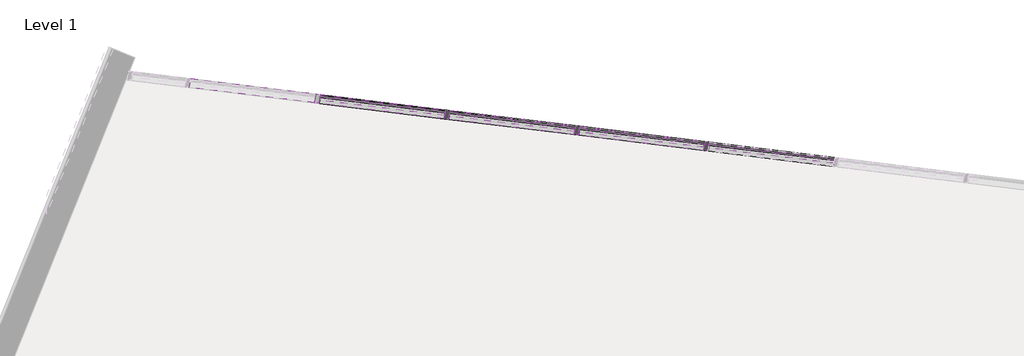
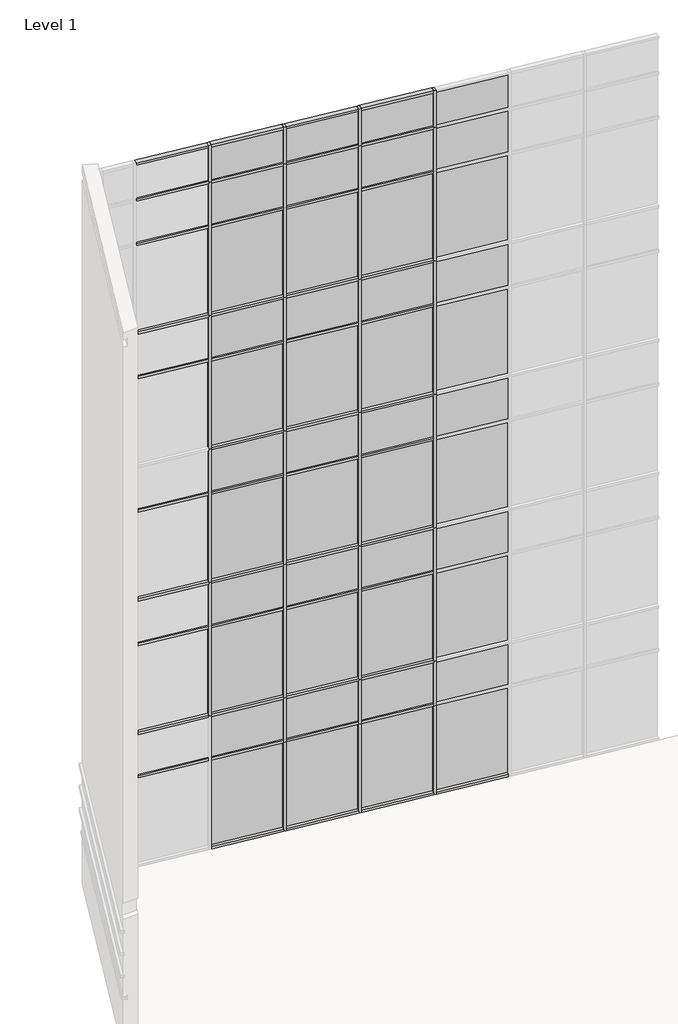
# One storey, part 16 of 23: 73 members, 44 plates.
"""IFC4 building model written with IfcOpenShell, lengths in millimetres."""

from ifc_helpers import new_model, si_unit, origin, place, context, project, spatial, transform, mapped, element, save
from components import member_2b49869a, member_f92b8aa2, member_810865a4, member_f0fea5a5, member_6d5c3e5e, member_9764dd38, system_panel_glazed_14c75400, system_panel_solid_5dfe6f83, system_panel_solid_e25e2004, system_panel_solid_b7551183

model = new_model("IFC4")

# Units and contexts
model_context = context("Model", 3, world=origin())
ifc_project = project(units=[si_unit("LENGTHUNIT", "METRE", prefix="MILLI")], contexts=[model_context])

# Site, building, storey
site = spatial("IfcSite", under=ifc_project)
building = spatial("IfcBuilding", under=site)
storey = spatial("IfcBuildingStorey", under=building, Name="Level 1", Elevation=0.0)

# Members
placement = place(None, origin())
member_shape = member_2b49869a(model_context)
element("IfcMember", 1, ObjectType="Rectangular Mullion : 2.5\" x 5\" rectangular", at=placement, inside=storey, context=model_context, shape_type="MappedRepresentation", body=[
    mapped(member_shape, transform((-22037.0151762, 14577.1664087, 2438.4), x_axis=(0.9925461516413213, -0.12186934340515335, 0.0), y_axis=(-0.12186934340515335, -0.9925461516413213, 0.0), z_axis=(0.0, 0.0, -1.0))),
])
element("IfcMember", 2, ObjectType="Rectangular Mullion : 2.5\" x 5\" rectangular", at=placement, inside=storey, context=model_context, shape_type="MappedRepresentation", body=[
    mapped(member_shape, transform((-23852.1835783, 14800.0410639, 2438.4), x_axis=(0.9925461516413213, -0.12186934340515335, 0.0), y_axis=(-0.12186934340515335, -0.9925461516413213, 0.0), z_axis=(0.0, 0.0, -1.0))),
])
element("IfcMember", 3, ObjectType="Rectangular Mullion : 2.5\" x 5\" rectangular", at=placement, inside=storey, context=model_context, shape_type="MappedRepresentation", body=[
    mapped(member_shape, transform((-25667.3519804, 15022.9157192, 2438.4), x_axis=(0.9925461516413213, -0.12186934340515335, 0.0), y_axis=(-0.12186934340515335, -0.9925461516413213, 0.0), z_axis=(0.0, 0.0, -1.0))),
])
member_2_shape = member_f92b8aa2(model_context)
element("IfcMember", 4, ObjectType="Rectangular Mullion : 2.5\" x 5\" rectangular", at=placement, inside=storey, context=model_context, shape_type="MappedRepresentation", body=[
    mapped(member_2_shape, transform((-22037.0151762, 14577.1664087, 18288.0), x_axis=(0.9925461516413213, -0.12186934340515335, 0.0), y_axis=(-0.12186934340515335, -0.9925461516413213, 0.0), z_axis=(0.0, 0.0, -1.0))),
])
element("IfcMember", 5, ObjectType="Rectangular Mullion : 2.5\" x 5\" rectangular", at=placement, inside=storey, context=model_context, shape_type="MappedRepresentation", body=[
    mapped(member_2_shape, transform((-23852.1835783, 14800.0410639, 18288.0), x_axis=(0.9925461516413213, -0.12186934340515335, 0.0), y_axis=(-0.12186934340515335, -0.9925461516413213, 0.0), z_axis=(0.0, 0.0, -1.0))),
])
element("IfcMember", 6, ObjectType="Rectangular Mullion : 2.5\" x 5\" rectangular", at=placement, inside=storey, context=model_context, shape_type="MappedRepresentation", body=[
    mapped(member_2_shape, transform((-25667.3519804, 15022.9157192, 18288.0), x_axis=(0.9925461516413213, -0.12186934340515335, 0.0), y_axis=(-0.12186934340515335, -0.9925461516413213, 0.0), z_axis=(0.0, 0.0, -1.0))),
])
element("IfcMember", 7, ObjectType="Rectangular Mullion : 2.5\" x 5\" rectangular", at=placement, inside=storey, context=model_context, shape_type="MappedRepresentation", body=[
    mapped(member_2_shape, transform((-27482.5203826, 15245.7903744, 18288.0), x_axis=(0.9925461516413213, -0.12186934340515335, 0.0), y_axis=(-0.12186934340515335, -0.9925461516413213, 0.0), z_axis=(0.0, 0.0, -1.0))),
])
member_3_shape = member_810865a4(model_context)
element("IfcMember", 8, ObjectType="Rectangular Mullion : 2.5\" x 5\" rectangular", at=placement, inside=storey, context=model_context, shape_type="MappedRepresentation", body=[
    mapped(member_3_shape, transform((-22037.0151762, 14577.1664087, 14630.4), x_axis=(0.9925461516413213, -0.12186934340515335, 0.0), y_axis=(-0.12186934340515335, -0.9925461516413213, 0.0), z_axis=(0.0, 0.0, -1.0))),
])
element("IfcMember", 9, ObjectType="Rectangular Mullion : 2.5\" x 5\" rectangular", at=placement, inside=storey, context=model_context, shape_type="MappedRepresentation", body=[
    mapped(member_3_shape, transform((-22037.0151762, 14577.1664087, 10972.8), x_axis=(0.9925461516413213, -0.12186934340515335, 0.0), y_axis=(-0.12186934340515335, -0.9925461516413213, 0.0), z_axis=(0.0, 0.0, -1.0))),
])
element("IfcMember", 10, ObjectType="Rectangular Mullion : 2.5\" x 5\" rectangular", at=placement, inside=storey, context=model_context, shape_type="MappedRepresentation", body=[
    mapped(member_3_shape, transform((-22037.0151762, 14577.1664087, 7315.2), x_axis=(0.9925461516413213, -0.12186934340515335, 0.0), y_axis=(-0.12186934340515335, -0.9925461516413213, 0.0), z_axis=(0.0, 0.0, -1.0))),
])
element("IfcMember", 11, ObjectType="Rectangular Mullion : 2.5\" x 5\" rectangular", at=placement, inside=storey, context=model_context, shape_type="MappedRepresentation", body=[
    mapped(member_3_shape, transform((-22037.0151762, 14577.1664087, 3657.6), x_axis=(0.9925461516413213, -0.12186934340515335, 0.0), y_axis=(-0.12186934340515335, -0.9925461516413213, 0.0), z_axis=(0.0, 0.0, -1.0))),
])
element("IfcMember", 12, ObjectType="Rectangular Mullion : 2.5\" x 5\" rectangular", at=placement, inside=storey, context=model_context, shape_type="MappedRepresentation", body=[
    mapped(member_3_shape, transform((-23852.1835783, 14800.0410639, 14630.4), x_axis=(0.9925461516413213, -0.12186934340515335, 0.0), y_axis=(-0.12186934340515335, -0.9925461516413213, 0.0), z_axis=(0.0, 0.0, -1.0))),
])
element("IfcMember", 13, ObjectType="Rectangular Mullion : 2.5\" x 5\" rectangular", at=placement, inside=storey, context=model_context, shape_type="MappedRepresentation", body=[
    mapped(member_3_shape, transform((-23852.1835783, 14800.0410639, 10972.8), x_axis=(0.9925461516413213, -0.12186934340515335, 0.0), y_axis=(-0.12186934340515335, -0.9925461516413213, 0.0), z_axis=(0.0, 0.0, -1.0))),
])
element("IfcMember", 14, ObjectType="Rectangular Mullion : 2.5\" x 5\" rectangular", at=placement, inside=storey, context=model_context, shape_type="MappedRepresentation", body=[
    mapped(member_3_shape, transform((-23852.1835783, 14800.0410639, 7315.2), x_axis=(0.9925461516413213, -0.12186934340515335, 0.0), y_axis=(-0.12186934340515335, -0.9925461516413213, 0.0), z_axis=(0.0, 0.0, -1.0))),
])
element("IfcMember", 15, ObjectType="Rectangular Mullion : 2.5\" x 5\" rectangular", at=placement, inside=storey, context=model_context, shape_type="MappedRepresentation", body=[
    mapped(member_3_shape, transform((-23852.1835783, 14800.0410639, 3657.6), x_axis=(0.9925461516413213, -0.12186934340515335, 0.0), y_axis=(-0.12186934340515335, -0.9925461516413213, 0.0), z_axis=(0.0, 0.0, -1.0))),
])
element("IfcMember", 16, ObjectType="Rectangular Mullion : 2.5\" x 5\" rectangular", at=placement, inside=storey, context=model_context, shape_type="MappedRepresentation", body=[
    mapped(member_3_shape, transform((-25667.3519804, 15022.9157192, 14630.4), x_axis=(0.9925461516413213, -0.12186934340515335, 0.0), y_axis=(-0.12186934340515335, -0.9925461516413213, 0.0), z_axis=(0.0, 0.0, -1.0))),
])
element("IfcMember", 17, ObjectType="Rectangular Mullion : 2.5\" x 5\" rectangular", at=placement, inside=storey, context=model_context, shape_type="MappedRepresentation", body=[
    mapped(member_3_shape, transform((-25667.3519804, 15022.9157192, 10972.8), x_axis=(0.9925461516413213, -0.12186934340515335, 0.0), y_axis=(-0.12186934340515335, -0.9925461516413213, 0.0), z_axis=(0.0, 0.0, -1.0))),
])
element("IfcMember", 18, ObjectType="Rectangular Mullion : 2.5\" x 5\" rectangular", at=placement, inside=storey, context=model_context, shape_type="MappedRepresentation", body=[
    mapped(member_3_shape, transform((-25667.3519804, 15022.9157192, 7315.2), x_axis=(0.9925461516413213, -0.12186934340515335, 0.0), y_axis=(-0.12186934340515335, -0.9925461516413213, 0.0), z_axis=(0.0, 0.0, -1.0))),
])
element("IfcMember", 19, ObjectType="Rectangular Mullion : 2.5\" x 5\" rectangular", at=placement, inside=storey, context=model_context, shape_type="MappedRepresentation", body=[
    mapped(member_3_shape, transform((-25667.3519804, 15022.9157192, 3657.6), x_axis=(0.9925461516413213, -0.12186934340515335, 0.0), y_axis=(-0.12186934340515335, -0.9925461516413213, 0.0), z_axis=(0.0, 0.0, -1.0))),
])
element("IfcMember", 20, ObjectType="Rectangular Mullion : 2.5\" x 5\" rectangular", at=placement, inside=storey, context=model_context, shape_type="MappedRepresentation", body=[
    mapped(member_3_shape, transform((-27482.5203826, 15245.7903744, 14630.4), x_axis=(0.9925461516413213, -0.12186934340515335, 0.0), y_axis=(-0.12186934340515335, -0.9925461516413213, 0.0), z_axis=(0.0, 0.0, -1.0))),
])
element("IfcMember", 21, ObjectType="Rectangular Mullion : 2.5\" x 5\" rectangular", at=placement, inside=storey, context=model_context, shape_type="MappedRepresentation", body=[
    mapped(member_3_shape, transform((-27482.5203826, 15245.7903744, 10972.8), x_axis=(0.9925461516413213, -0.12186934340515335, 0.0), y_axis=(-0.12186934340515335, -0.9925461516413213, 0.0), z_axis=(0.0, 0.0, -1.0))),
])
element("IfcMember", 22, ObjectType="Rectangular Mullion : 2.5\" x 5\" rectangular", at=placement, inside=storey, context=model_context, shape_type="MappedRepresentation", body=[
    mapped(member_3_shape, transform((-27482.5203826, 15245.7903744, 7315.2), x_axis=(0.9925461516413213, -0.12186934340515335, 0.0), y_axis=(-0.12186934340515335, -0.9925461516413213, 0.0), z_axis=(0.0, 0.0, -1.0))),
])
element("IfcMember", 23, ObjectType="Rectangular Mullion : 2.5\" x 5\" rectangular", at=placement, inside=storey, context=model_context, shape_type="MappedRepresentation", body=[
    mapped(member_3_shape, transform((-27482.5203826, 15245.7903744, 3657.6), x_axis=(0.9925461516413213, -0.12186934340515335, 0.0), y_axis=(-0.12186934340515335, -0.9925461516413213, 0.0), z_axis=(0.0, 0.0, -1.0))),
])
member_4_shape = member_f0fea5a5(model_context)
element("IfcMember", 24, ObjectType="Rectangular Mullion : 2.5\" x 5\" rectangular", at=placement, inside=storey, context=model_context, shape_type="MappedRepresentation", body=[
    mapped(member_4_shape, transform((-22037.0151762, 14577.1664087, 0.0), x_axis=(0.9925461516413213, -0.12186934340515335, 0.0), y_axis=(-0.12186934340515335, -0.9925461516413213, 0.0), z_axis=(0.0, 0.0, -1.0))),
])
element("IfcMember", 25, ObjectType="Rectangular Mullion : 2.5\" x 5\" rectangular", at=placement, inside=storey, context=model_context, shape_type="MappedRepresentation", body=[
    mapped(member_4_shape, transform((-23852.1835783, 14800.0410639, 0.0), x_axis=(0.9925461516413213, -0.12186934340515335, 0.0), y_axis=(-0.12186934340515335, -0.9925461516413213, 0.0), z_axis=(0.0, 0.0, -1.0))),
])
element("IfcMember", 26, ObjectType="Rectangular Mullion : 2.5\" x 5\" rectangular", at=placement, inside=storey, context=model_context, shape_type="MappedRepresentation", body=[
    mapped(member_4_shape, transform((-25667.3519804, 15022.9157192, 0.0), x_axis=(0.9925461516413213, -0.12186934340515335, 0.0), y_axis=(-0.12186934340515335, -0.9925461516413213, 0.0), z_axis=(0.0, 0.0, -1.0))),
])
member_5_shape = member_6d5c3e5e(model_context)
element("IfcMember", 27, ObjectType="Rectangular Mullion : 2.5\" x 5\" rectangular", at=placement, inside=storey, context=model_context, shape_type="MappedRepresentation", body=[
    mapped(member_5_shape, transform((-22068.5285165, 14581.0357604, 19304.0), x_axis=(0.0, 0.0, 1.0), y_axis=(-0.12186934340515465, -0.9925461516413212, 0.0), z_axis=(0.9925461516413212, -0.12186934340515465, 0.0))),
])
element("IfcMember", 28, ObjectType="Rectangular Mullion : 2.5\" x 5\" rectangular", at=placement, inside=storey, context=model_context, shape_type="MappedRepresentation", body=[
    mapped(member_5_shape, transform((-23883.6969186, 14803.9104156, 19304.0), x_axis=(0.0, 0.0, 1.0), y_axis=(-0.12186934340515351, -0.9925461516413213, 0.0), z_axis=(0.9925461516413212, -0.1218693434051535, 0.0))),
])
element("IfcMember", 29, ObjectType="Rectangular Mullion : 2.5\" x 5\" rectangular", at=placement, inside=storey, context=model_context, shape_type="MappedRepresentation", body=[
    mapped(member_5_shape, transform((-25698.8653208, 15026.7850708, 19304.0), x_axis=(0.0, 0.0, 1.0), y_axis=(-0.12186934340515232, -0.9925461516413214, 0.0), z_axis=(0.9925461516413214, -0.12186934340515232, 0.0))),
])
element("IfcMember", 30, ObjectType="Rectangular Mullion : 2.5\" x 5\" rectangular", at=placement, inside=storey, context=model_context, shape_type="MappedRepresentation", body=[
    mapped(member_5_shape, transform((-27514.0337229, 15249.659726, 19304.0), x_axis=(0.0, 0.0, 1.0), y_axis=(-0.12186934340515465, -0.9925461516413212, 0.0), z_axis=(0.9925461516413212, -0.12186934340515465, 0.0))),
])
member_6_shape = member_9764dd38(model_context)
element("IfcMember", 31, ObjectType="Rectangular Mullion : 2.5\" x 5\" rectangular", at=placement, inside=storey, context=model_context, shape_type="MappedRepresentation", body=[
    mapped(member_6_shape, transform((-22068.5285165, 14581.0357604, 17068.8), x_axis=(0.0, 0.0, 1.0), y_axis=(-0.12186934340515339, -0.9925461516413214, 0.0), z_axis=(0.9925461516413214, -0.12186934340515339, 0.0))),
])
element("IfcMember", 32, ObjectType="Rectangular Mullion : 2.5\" x 5\" rectangular", at=placement, inside=storey, context=model_context, shape_type="MappedRepresentation", body=[
    mapped(member_6_shape, transform((-23883.6969186, 14803.9104156, 17068.8), x_axis=(0.0, 0.0, 1.0), y_axis=(-0.12186934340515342, -0.9925461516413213, 0.0), z_axis=(0.9925461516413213, -0.12186934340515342, 0.0))),
])
element("IfcMember", 33, ObjectType="Rectangular Mullion : 2.5\" x 5\" rectangular", at=placement, inside=storey, context=model_context, shape_type="MappedRepresentation", body=[
    mapped(member_6_shape, transform((-25698.8653208, 15026.7850708, 17068.8), x_axis=(0.0, 0.0, 1.0), y_axis=(-0.12186934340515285, -0.9925461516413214, 0.0), z_axis=(0.9925461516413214, -0.12186934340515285, 0.0))),
])
element("IfcMember", 34, ObjectType="Rectangular Mullion : 2.5\" x 5\" rectangular", at=placement, inside=storey, context=model_context, shape_type="MappedRepresentation", body=[
    mapped(member_6_shape, transform((-27514.0337229, 15249.659726, 17068.8), x_axis=(0.0, 0.0, 1.0), y_axis=(-0.12186934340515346, -0.9925461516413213, 0.0), z_axis=(0.9925461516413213, -0.12186934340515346, 0.0))),
])
element("IfcMember", 35, ObjectType="Rectangular Mullion : 2.5\" x 5\" rectangular", at=placement, inside=storey, context=model_context, shape_type="MappedRepresentation", body=[
    mapped(member_6_shape, transform((-22068.5285165, 14581.0357604, 13411.2), x_axis=(0.0, 0.0, 1.0), y_axis=(-0.12186934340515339, -0.9925461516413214, 0.0), z_axis=(0.9925461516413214, -0.12186934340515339, 0.0))),
])
element("IfcMember", 36, ObjectType="Rectangular Mullion : 2.5\" x 5\" rectangular", at=placement, inside=storey, context=model_context, shape_type="MappedRepresentation", body=[
    mapped(member_6_shape, transform((-23883.6969186, 14803.9104156, 13411.2), x_axis=(0.0, 0.0, 1.0), y_axis=(-0.12186934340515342, -0.9925461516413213, 0.0), z_axis=(0.9925461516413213, -0.12186934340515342, 0.0))),
])
element("IfcMember", 37, ObjectType="Rectangular Mullion : 2.5\" x 5\" rectangular", at=placement, inside=storey, context=model_context, shape_type="MappedRepresentation", body=[
    mapped(member_6_shape, transform((-25698.8653208, 15026.7850708, 13411.2), x_axis=(0.0, 0.0, 1.0), y_axis=(-0.12186934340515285, -0.9925461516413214, 0.0), z_axis=(0.9925461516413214, -0.12186934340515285, 0.0))),
])
element("IfcMember", 38, ObjectType="Rectangular Mullion : 2.5\" x 5\" rectangular", at=placement, inside=storey, context=model_context, shape_type="MappedRepresentation", body=[
    mapped(member_6_shape, transform((-27514.0337229, 15249.659726, 13411.2), x_axis=(0.0, 0.0, 1.0), y_axis=(-0.12186934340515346, -0.9925461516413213, 0.0), z_axis=(0.9925461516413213, -0.12186934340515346, 0.0))),
])
element("IfcMember", 39, ObjectType="Rectangular Mullion : 2.5\" x 5\" rectangular", at=placement, inside=storey, context=model_context, shape_type="MappedRepresentation", body=[
    mapped(member_6_shape, transform((-22068.5285165, 14581.0357604, 9753.6), x_axis=(0.0, 0.0, 1.0), y_axis=(-0.12186934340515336, -0.9925461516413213, 0.0), z_axis=(0.9925461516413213, -0.12186934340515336, 0.0))),
])
element("IfcMember", 40, ObjectType="Rectangular Mullion : 2.5\" x 5\" rectangular", at=placement, inside=storey, context=model_context, shape_type="MappedRepresentation", body=[
    mapped(member_6_shape, transform((-23883.6969186, 14803.9104156, 9753.6), x_axis=(0.0, 0.0, 1.0), y_axis=(-0.12186934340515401, -0.9925461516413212, 0.0), z_axis=(0.9925461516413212, -0.12186934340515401, 0.0))),
])
element("IfcMember", 41, ObjectType="Rectangular Mullion : 2.5\" x 5\" rectangular", at=placement, inside=storey, context=model_context, shape_type="MappedRepresentation", body=[
    mapped(member_6_shape, transform((-25698.8653208, 15026.7850708, 9753.6), x_axis=(0.0, 0.0, 1.0), y_axis=(-0.12186934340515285, -0.9925461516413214, 0.0), z_axis=(0.9925461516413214, -0.12186934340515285, 0.0))),
])
element("IfcMember", 42, ObjectType="Rectangular Mullion : 2.5\" x 5\" rectangular", at=placement, inside=storey, context=model_context, shape_type="MappedRepresentation", body=[
    mapped(member_6_shape, transform((-27514.0337229, 15249.659726, 9753.6), x_axis=(0.0, 0.0, 1.0), y_axis=(-0.12186934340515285, -0.9925461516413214, 0.0), z_axis=(0.9925461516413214, -0.12186934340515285, 0.0))),
])
element("IfcMember", 43, ObjectType="Rectangular Mullion : 2.5\" x 5\" rectangular", at=placement, inside=storey, context=model_context, shape_type="MappedRepresentation", body=[
    mapped(member_6_shape, transform((-22068.5285165, 14581.0357604, 6096.0), x_axis=(0.0, 0.0, 1.0), y_axis=(-0.12186934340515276, -0.9925461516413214, 0.0), z_axis=(0.9925461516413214, -0.12186934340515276, 0.0))),
])
element("IfcMember", 44, ObjectType="Rectangular Mullion : 2.5\" x 5\" rectangular", at=placement, inside=storey, context=model_context, shape_type="MappedRepresentation", body=[
    mapped(member_6_shape, transform((-23883.6969186, 14803.9104156, 6096.0), x_axis=(0.0, 0.0, 1.0), y_axis=(-0.12186934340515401, -0.9925461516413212, 0.0), z_axis=(0.9925461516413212, -0.12186934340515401, 0.0))),
])
element("IfcMember", 45, ObjectType="Rectangular Mullion : 2.5\" x 5\" rectangular", at=placement, inside=storey, context=model_context, shape_type="MappedRepresentation", body=[
    mapped(member_6_shape, transform((-25698.8653208, 15026.7850708, 6096.0), x_axis=(0.0, 0.0, 1.0), y_axis=(-0.12186934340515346, -0.9925461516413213, 0.0), z_axis=(0.9925461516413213, -0.12186934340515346, 0.0))),
])
element("IfcMember", 46, ObjectType="Rectangular Mullion : 2.5\" x 5\" rectangular", at=placement, inside=storey, context=model_context, shape_type="MappedRepresentation", body=[
    mapped(member_6_shape, transform((-27514.0337229, 15249.659726, 6096.0), x_axis=(0.0, 0.0, 1.0), y_axis=(-0.12186934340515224, -0.9925461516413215, 0.0), z_axis=(0.9925461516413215, -0.12186934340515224, 0.0))),
])
element("IfcMember", 47, ObjectType="Rectangular Mullion : 2.5\" x 5\" rectangular", at=placement, inside=storey, context=model_context, shape_type="MappedRepresentation", body=[
    mapped(member_6_shape, transform((-22068.5285165, 14581.0357604, 2470.15), x_axis=(0.0, 0.0, 1.0), y_axis=(-0.12186934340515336, -0.9925461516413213, 0.0), z_axis=(0.9925461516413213, -0.12186934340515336, 0.0))),
])
element("IfcMember", 48, ObjectType="Rectangular Mullion : 2.5\" x 5\" rectangular", at=placement, inside=storey, context=model_context, shape_type="MappedRepresentation", body=[
    mapped(member_6_shape, transform((-23883.6969186, 14803.9104156, 2470.15), x_axis=(0.0, 0.0, 1.0), y_axis=(-0.12186934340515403, -0.9925461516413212, 0.0), z_axis=(0.9925461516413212, -0.12186934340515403, 0.0))),
])
element("IfcMember", 49, ObjectType="Rectangular Mullion : 2.5\" x 5\" rectangular", at=placement, inside=storey, context=model_context, shape_type="MappedRepresentation", body=[
    mapped(member_6_shape, transform((-25698.8653208, 15026.7850708, 2470.15), x_axis=(0.0, 0.0, 1.0), y_axis=(-0.12186934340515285, -0.9925461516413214, 0.0), z_axis=(0.9925461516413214, -0.12186934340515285, 0.0))),
])
element("IfcMember", 50, ObjectType="Rectangular Mullion : 2.5\" x 5\" rectangular", at=placement, inside=storey, context=model_context, shape_type="MappedRepresentation", body=[
    mapped(member_6_shape, transform((-27514.0337229, 15249.659726, 2470.15), x_axis=(0.0, 0.0, 1.0), y_axis=(-0.12186934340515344, -0.9925461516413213, 0.0), z_axis=(0.9925461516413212, -0.12186934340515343, 0.0))),
])
element("IfcMember", 51, ObjectType="Rectangular Mullion : 2.5\" x 5\" rectangular", at=placement, inside=storey, context=model_context, shape_type="MappedRepresentation", body=[
    mapped(member_5_shape, transform((-22005.5018359, 14573.2970571, 0.0), x_axis=(0.0, 0.0, -1.0), y_axis=(-0.12186934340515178, -0.9925461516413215, 0.0), z_axis=(-0.9925461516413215, 0.12186934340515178, 0.0))),
])
element("IfcMember", 52, ObjectType="Rectangular Mullion : 2.5\" x 5\" rectangular", at=placement, inside=storey, context=model_context, shape_type="MappedRepresentation", body=[
    mapped(member_5_shape, transform((-23820.670238, 14796.1717123, 0.0), x_axis=(0.0, 0.0, -1.0), y_axis=(-0.12186934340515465, -0.9925461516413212, 0.0), z_axis=(-0.9925461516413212, 0.12186934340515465, 0.0))),
])
element("IfcMember", 53, ObjectType="Rectangular Mullion : 2.5\" x 5\" rectangular", at=placement, inside=storey, context=model_context, shape_type="MappedRepresentation", body=[
    mapped(member_5_shape, transform((-25635.8386401, 15019.0463675, 0.0), x_axis=(0.0, 0.0, -1.0), y_axis=(-0.12186934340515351, -0.9925461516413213, 0.0), z_axis=(-0.9925461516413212, 0.1218693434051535, 0.0))),
])
element("IfcMember", 54, ObjectType="Rectangular Mullion : 2.5\" x 5\" rectangular", at=placement, inside=storey, context=model_context, shape_type="MappedRepresentation", body=[
    mapped(member_5_shape, transform((-27451.0070423, 15241.9210227, 0.0), x_axis=(0.0, 0.0, -1.0), y_axis=(-0.12186934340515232, -0.9925461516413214, 0.0), z_axis=(-0.9925461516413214, 0.12186934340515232, 0.0))),
])
element("IfcMember", 55, ObjectType="Rectangular Mullion : 2.5\" x 5\" rectangular", at=placement, inside=storey, context=model_context, shape_type="MappedRepresentation", body=[
    mapped(member_6_shape, transform((-22068.5285165, 14581.0357604, 3657.6), x_axis=(0.0, 0.0, 1.0), y_axis=(-0.12186934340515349, -0.9925461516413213, 0.0), z_axis=(0.9925461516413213, -0.12186934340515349, 0.0))),
])
element("IfcMember", 56, ObjectType="Rectangular Mullion : 2.5\" x 5\" rectangular", at=placement, inside=storey, context=model_context, shape_type="MappedRepresentation", body=[
    mapped(member_6_shape, transform((-23883.6969186, 14803.9104156, 3657.6), x_axis=(0.0, 0.0, 1.0), y_axis=(-0.12186934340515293, -0.9925461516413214, 0.0), z_axis=(0.9925461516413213, -0.12186934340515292, 0.0))),
])
element("IfcMember", 57, ObjectType="Rectangular Mullion : 2.5\" x 5\" rectangular", at=placement, inside=storey, context=model_context, shape_type="MappedRepresentation", body=[
    mapped(member_6_shape, transform((-22068.5285165, 14581.0357604, 10972.8), x_axis=(0.0, 0.0, 1.0), y_axis=(-0.12186934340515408, -0.9925461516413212, 0.0), z_axis=(0.9925461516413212, -0.12186934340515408, 0.0))),
])
element("IfcMember", 58, ObjectType="Rectangular Mullion : 2.5\" x 5\" rectangular", at=placement, inside=storey, context=model_context, shape_type="MappedRepresentation", body=[
    mapped(member_6_shape, transform((-23883.6969186, 14803.9104156, 10972.8), x_axis=(0.0, 0.0, 1.0), y_axis=(-0.12186934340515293, -0.9925461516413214, 0.0), z_axis=(0.9925461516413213, -0.12186934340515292, 0.0))),
])
element("IfcMember", 59, ObjectType="Rectangular Mullion : 2.5\" x 5\" rectangular", at=placement, inside=storey, context=model_context, shape_type="MappedRepresentation", body=[
    mapped(member_6_shape, transform((-25698.8653208, 15026.7850708, 10972.8), x_axis=(0.0, 0.0, 1.0), y_axis=(-0.12186934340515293, -0.9925461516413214, 0.0), z_axis=(0.9925461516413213, -0.12186934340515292, 0.0))),
])
element("IfcMember", 60, ObjectType="Rectangular Mullion : 2.5\" x 5\" rectangular", at=placement, inside=storey, context=model_context, shape_type="MappedRepresentation", body=[
    mapped(member_6_shape, transform((-22068.5285165, 14581.0357604, 7315.2), x_axis=(0.0, 0.0, 1.0), y_axis=(-0.12186934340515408, -0.9925461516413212, 0.0), z_axis=(0.9925461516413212, -0.12186934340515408, 0.0))),
])
element("IfcMember", 61, ObjectType="Rectangular Mullion : 2.5\" x 5\" rectangular", at=placement, inside=storey, context=model_context, shape_type="MappedRepresentation", body=[
    mapped(member_6_shape, transform((-23883.6969186, 14803.9104156, 7315.2), x_axis=(0.0, 0.0, 1.0), y_axis=(-0.12186934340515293, -0.9925461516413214, 0.0), z_axis=(0.9925461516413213, -0.12186934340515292, 0.0))),
])
element("IfcMember", 62, ObjectType="Rectangular Mullion : 2.5\" x 5\" rectangular", at=placement, inside=storey, context=model_context, shape_type="MappedRepresentation", body=[
    mapped(member_6_shape, transform((-25698.8653208, 15026.7850708, 7315.2), x_axis=(0.0, 0.0, 1.0), y_axis=(-0.12186934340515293, -0.9925461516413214, 0.0), z_axis=(0.9925461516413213, -0.12186934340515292, 0.0))),
])
element("IfcMember", 63, ObjectType="Rectangular Mullion : 2.5\" x 5\" rectangular", at=placement, inside=storey, context=model_context, shape_type="MappedRepresentation", body=[
    mapped(member_6_shape, transform((-27514.0337229, 15249.659726, 7315.2), x_axis=(0.0, 0.0, 1.0), y_axis=(-0.12186934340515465, -0.9925461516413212, 0.0), z_axis=(0.9925461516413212, -0.12186934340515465, 0.0))),
])
element("IfcMember", 64, ObjectType="Rectangular Mullion : 2.5\" x 5\" rectangular", at=placement, inside=storey, context=model_context, shape_type="MappedRepresentation", body=[
    mapped(member_6_shape, transform((-22068.5285165, 14581.0357604, 18288.0), x_axis=(0.0, 0.0, 1.0), y_axis=(-0.12186934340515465, -0.9925461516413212, 0.0), z_axis=(0.9925461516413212, -0.12186934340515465, 0.0))),
])
element("IfcMember", 65, ObjectType="Rectangular Mullion : 2.5\" x 5\" rectangular", at=placement, inside=storey, context=model_context, shape_type="MappedRepresentation", body=[
    mapped(member_6_shape, transform((-23883.6969186, 14803.9104156, 18288.0), x_axis=(0.0, 0.0, 1.0), y_axis=(-0.12186934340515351, -0.9925461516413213, 0.0), z_axis=(0.9925461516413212, -0.1218693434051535, 0.0))),
])
element("IfcMember", 66, ObjectType="Rectangular Mullion : 2.5\" x 5\" rectangular", at=placement, inside=storey, context=model_context, shape_type="MappedRepresentation", body=[
    mapped(member_6_shape, transform((-25698.8653208, 15026.7850708, 18288.0), x_axis=(0.0, 0.0, 1.0), y_axis=(-0.12186934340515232, -0.9925461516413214, 0.0), z_axis=(0.9925461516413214, -0.12186934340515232, 0.0))),
])
element("IfcMember", 67, ObjectType="Rectangular Mullion : 2.5\" x 5\" rectangular", at=placement, inside=storey, context=model_context, shape_type="MappedRepresentation", body=[
    mapped(member_6_shape, transform((-27514.0337229, 15249.659726, 18288.0), x_axis=(0.0, 0.0, 1.0), y_axis=(-0.12186934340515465, -0.9925461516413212, 0.0), z_axis=(0.9925461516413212, -0.12186934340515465, 0.0))),
])
element("IfcMember", 68, ObjectType="Rectangular Mullion : 2.5\" x 5\" rectangular", at=placement, inside=storey, context=model_context, shape_type="MappedRepresentation", body=[
    mapped(member_6_shape, transform((-22068.5285165, 14581.0357604, 14630.4), x_axis=(0.0, 0.0, 1.0), y_axis=(-0.12186934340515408, -0.9925461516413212, 0.0), z_axis=(0.9925461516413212, -0.12186934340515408, 0.0))),
])
element("IfcMember", 69, ObjectType="Rectangular Mullion : 2.5\" x 5\" rectangular", at=placement, inside=storey, context=model_context, shape_type="MappedRepresentation", body=[
    mapped(member_6_shape, transform((-23883.6969186, 14803.9104156, 14630.4), x_axis=(0.0, 0.0, 1.0), y_axis=(-0.12186934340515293, -0.9925461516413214, 0.0), z_axis=(0.9925461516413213, -0.12186934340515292, 0.0))),
])
element("IfcMember", 70, ObjectType="Rectangular Mullion : 2.5\" x 5\" rectangular", at=placement, inside=storey, context=model_context, shape_type="MappedRepresentation", body=[
    mapped(member_6_shape, transform((-25698.8653208, 15026.7850708, 14630.4), x_axis=(0.0, 0.0, 1.0), y_axis=(-0.12186934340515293, -0.9925461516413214, 0.0), z_axis=(0.9925461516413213, -0.12186934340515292, 0.0))),
])
element("IfcMember", 71, ObjectType="Rectangular Mullion : 2.5\" x 5\" rectangular", at=placement, inside=storey, context=model_context, shape_type="MappedRepresentation", body=[
    mapped(member_6_shape, transform((-27514.0337229, 15249.659726, 14630.4), x_axis=(0.0, 0.0, 1.0), y_axis=(-0.12186934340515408, -0.9925461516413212, 0.0), z_axis=(0.9925461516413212, -0.12186934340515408, 0.0))),
])
element("IfcMember", 72, ObjectType="Rectangular Mullion : 2.5\" x 5\" rectangular", at=placement, inside=storey, context=model_context, shape_type="MappedRepresentation", body=[
    mapped(member_6_shape, transform((-25698.8653208, 15026.7850708, 3657.6), x_axis=(0.0, 0.0, 1.0), y_axis=(-0.12186934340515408, -0.9925461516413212, 0.0), z_axis=(0.9925461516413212, -0.12186934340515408, 0.0))),
])
element("IfcMember", 73, ObjectType="Rectangular Mullion : 2.5\" x 5\" rectangular", at=placement, inside=storey, context=model_context, shape_type="MappedRepresentation", body=[
    mapped(member_6_shape, transform((-27514.0337229, 15249.659726, 3657.6), x_axis=(0.0, 0.0, 1.0), y_axis=(-0.12186934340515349, -0.9925461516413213, 0.0), z_axis=(0.9925461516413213, -0.12186934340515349, 0.0))),
])

# Plates
system_panel_glazed_shape = system_panel_glazed_14c75400(model_context)
element("IfcPlate", 74, ObjectType="System Panel : Glazed", at=placement, inside=storey, context=model_context, shape_type="MappedRepresentation", body=[
    mapped(system_panel_glazed_shape, transform((-21129.4309751, 14465.7290811, 14662.15), x_axis=(0.9925461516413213, -0.12186934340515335, 0.0), y_axis=(0.12186934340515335, 0.9925461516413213, 0.0), z_axis=(0.0, 0.0, 1.0))),
])
element("IfcPlate", 75, ObjectType="System Panel : Glazed", at=placement, inside=storey, context=model_context, shape_type="MappedRepresentation", body=[
    mapped(system_panel_glazed_shape, transform((-22944.5993773, 14688.6037363, 14662.15), x_axis=(0.9925461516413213, -0.12186934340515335, 0.0), y_axis=(0.12186934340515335, 0.9925461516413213, 0.0), z_axis=(0.0, 0.0, 1.0))),
])
element("IfcPlate", 76, ObjectType="System Panel : Glazed", at=placement, inside=storey, context=model_context, shape_type="MappedRepresentation", body=[
    mapped(system_panel_glazed_shape, transform((-24759.7677794, 14911.4783915, 14662.15), x_axis=(0.9925461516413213, -0.12186934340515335, 0.0), y_axis=(0.12186934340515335, 0.9925461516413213, 0.0), z_axis=(0.0, 0.0, 1.0))),
])
element("IfcPlate", 77, ObjectType="System Panel : Glazed", at=placement, inside=storey, context=model_context, shape_type="MappedRepresentation", body=[
    mapped(system_panel_glazed_shape, transform((-26574.9361815, 15134.3530468, 14662.15), x_axis=(0.9925461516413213, -0.12186934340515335, 0.0), y_axis=(0.12186934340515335, 0.9925461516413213, 0.0), z_axis=(0.0, 0.0, 1.0))),
])
element("IfcPlate", 78, ObjectType="System Panel : Glazed", at=placement, inside=storey, context=model_context, shape_type="MappedRepresentation", body=[
    mapped(system_panel_glazed_shape, transform((-21129.4309751, 14465.7290811, 11004.55), x_axis=(0.9925461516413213, -0.12186934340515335, 0.0), y_axis=(0.12186934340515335, 0.9925461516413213, 0.0), z_axis=(0.0, 0.0, 1.0))),
])
element("IfcPlate", 79, ObjectType="System Panel : Glazed", at=placement, inside=storey, context=model_context, shape_type="MappedRepresentation", body=[
    mapped(system_panel_glazed_shape, transform((-22944.5993773, 14688.6037363, 11004.55), x_axis=(0.9925461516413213, -0.12186934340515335, 0.0), y_axis=(0.12186934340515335, 0.9925461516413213, 0.0), z_axis=(0.0, 0.0, 1.0))),
])
element("IfcPlate", 80, ObjectType="System Panel : Glazed", at=placement, inside=storey, context=model_context, shape_type="MappedRepresentation", body=[
    mapped(system_panel_glazed_shape, transform((-24759.7677794, 14911.4783915, 11004.55), x_axis=(0.9925461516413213, -0.12186934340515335, 0.0), y_axis=(0.12186934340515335, 0.9925461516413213, 0.0), z_axis=(0.0, 0.0, 1.0))),
])
element("IfcPlate", 81, ObjectType="System Panel : Glazed", at=placement, inside=storey, context=model_context, shape_type="MappedRepresentation", body=[
    mapped(system_panel_glazed_shape, transform((-26574.9361815, 15134.3530468, 11004.55), x_axis=(0.9925461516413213, -0.12186934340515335, 0.0), y_axis=(0.12186934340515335, 0.9925461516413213, 0.0), z_axis=(0.0, 0.0, 1.0))),
])
element("IfcPlate", 82, ObjectType="System Panel : Glazed", at=placement, inside=storey, context=model_context, shape_type="MappedRepresentation", body=[
    mapped(system_panel_glazed_shape, transform((-21129.4309751, 14465.7290811, 7346.95), x_axis=(0.9925461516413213, -0.12186934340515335, 0.0), y_axis=(0.12186934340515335, 0.9925461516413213, 0.0), z_axis=(0.0, 0.0, 1.0))),
])
element("IfcPlate", 83, ObjectType="System Panel : Glazed", at=placement, inside=storey, context=model_context, shape_type="MappedRepresentation", body=[
    mapped(system_panel_glazed_shape, transform((-22944.5993773, 14688.6037363, 7346.95), x_axis=(0.9925461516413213, -0.12186934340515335, 0.0), y_axis=(0.12186934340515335, 0.9925461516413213, 0.0), z_axis=(0.0, 0.0, 1.0))),
])
element("IfcPlate", 84, ObjectType="System Panel : Glazed", at=placement, inside=storey, context=model_context, shape_type="MappedRepresentation", body=[
    mapped(system_panel_glazed_shape, transform((-24759.7677794, 14911.4783915, 7346.95), x_axis=(0.9925461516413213, -0.12186934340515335, 0.0), y_axis=(0.12186934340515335, 0.9925461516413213, 0.0), z_axis=(0.0, 0.0, 1.0))),
])
element("IfcPlate", 85, ObjectType="System Panel : Glazed", at=placement, inside=storey, context=model_context, shape_type="MappedRepresentation", body=[
    mapped(system_panel_glazed_shape, transform((-26574.9361815, 15134.3530468, 7346.95), x_axis=(0.9925461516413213, -0.12186934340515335, 0.0), y_axis=(0.12186934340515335, 0.9925461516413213, 0.0), z_axis=(0.0, 0.0, 1.0))),
])
element("IfcPlate", 86, ObjectType="System Panel : Glazed", at=placement, inside=storey, context=model_context, shape_type="MappedRepresentation", body=[
    mapped(system_panel_glazed_shape, transform((-21129.4309751, 14465.7290811, 3689.35), x_axis=(0.9925461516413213, -0.12186934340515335, 0.0), y_axis=(0.12186934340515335, 0.9925461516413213, 0.0), z_axis=(0.0, 0.0, 1.0))),
])
element("IfcPlate", 87, ObjectType="System Panel : Glazed", at=placement, inside=storey, context=model_context, shape_type="MappedRepresentation", body=[
    mapped(system_panel_glazed_shape, transform((-22944.5993773, 14688.6037363, 3689.35), x_axis=(0.9925461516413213, -0.12186934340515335, 0.0), y_axis=(0.12186934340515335, 0.9925461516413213, 0.0), z_axis=(0.0, 0.0, 1.0))),
])
element("IfcPlate", 88, ObjectType="System Panel : Glazed", at=placement, inside=storey, context=model_context, shape_type="MappedRepresentation", body=[
    mapped(system_panel_glazed_shape, transform((-24759.7677794, 14911.4783915, 3689.35), x_axis=(0.9925461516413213, -0.12186934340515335, 0.0), y_axis=(0.12186934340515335, 0.9925461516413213, 0.0), z_axis=(0.0, 0.0, 1.0))),
])
element("IfcPlate", 89, ObjectType="System Panel : Glazed", at=placement, inside=storey, context=model_context, shape_type="MappedRepresentation", body=[
    mapped(system_panel_glazed_shape, transform((-26574.9361815, 15134.3530468, 3689.35), x_axis=(0.9925461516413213, -0.12186934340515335, 0.0), y_axis=(0.12186934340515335, 0.9925461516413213, 0.0), z_axis=(0.0, 0.0, 1.0))),
])
element("IfcPlate", 90, ObjectType="System Panel : Glazed", at=placement, inside=storey, context=model_context, shape_type="MappedRepresentation", body=[
    mapped(system_panel_glazed_shape, transform((-21129.4309751, 14465.7290811, 63.5), x_axis=(0.9925461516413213, -0.12186934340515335, 0.0), y_axis=(0.12186934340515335, 0.9925461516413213, 0.0), z_axis=(0.0, 0.0, 1.0))),
])
element("IfcPlate", 91, ObjectType="System Panel : Glazed", at=placement, inside=storey, context=model_context, shape_type="MappedRepresentation", body=[
    mapped(system_panel_glazed_shape, transform((-22944.5993773, 14688.6037363, 63.5), x_axis=(0.9925461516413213, -0.12186934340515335, 0.0), y_axis=(0.12186934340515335, 0.9925461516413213, 0.0), z_axis=(0.0, 0.0, 1.0))),
])
element("IfcPlate", 92, ObjectType="System Panel : Glazed", at=placement, inside=storey, context=model_context, shape_type="MappedRepresentation", body=[
    mapped(system_panel_glazed_shape, transform((-24759.7677794, 14911.4783915, 63.5), x_axis=(0.9925461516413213, -0.12186934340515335, 0.0), y_axis=(0.12186934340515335, 0.9925461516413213, 0.0), z_axis=(0.0, 0.0, 1.0))),
])
element("IfcPlate", 93, ObjectType="System Panel : Glazed", at=placement, inside=storey, context=model_context, shape_type="MappedRepresentation", body=[
    mapped(system_panel_glazed_shape, transform((-26574.9361815, 15134.3530468, 63.5), x_axis=(0.9925461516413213, -0.12186934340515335, 0.0), y_axis=(0.12186934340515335, 0.9925461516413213, 0.0), z_axis=(0.0, 0.0, 1.0))),
])
system_panel_solid_shape = system_panel_solid_5dfe6f83(model_context)
element("IfcPlate", 94, ObjectType="System Panel : Solid", at=placement, inside=storey, context=model_context, shape_type="MappedRepresentation", body=[
    mapped(system_panel_solid_shape, transform((-26574.9361815, 15134.3530468, 18319.75), x_axis=(0.9925461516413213, -0.12186934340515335, 0.0), y_axis=(0.12186934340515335, 0.9925461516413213, 0.0), z_axis=(0.0, 0.0, 1.0))),
])
element("IfcPlate", 95, ObjectType="System Panel : Solid", at=placement, inside=storey, context=model_context, shape_type="MappedRepresentation", body=[
    mapped(system_panel_solid_shape, transform((-24759.7677794, 14911.4783915, 18319.75), x_axis=(0.9925461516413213, -0.12186934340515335, 0.0), y_axis=(0.12186934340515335, 0.9925461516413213, 0.0), z_axis=(0.0, 0.0, 1.0))),
])
element("IfcPlate", 96, ObjectType="System Panel : Solid", at=placement, inside=storey, context=model_context, shape_type="MappedRepresentation", body=[
    mapped(system_panel_solid_shape, transform((-22944.5993773, 14688.6037363, 18319.75), x_axis=(0.9925461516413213, -0.12186934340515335, 0.0), y_axis=(0.12186934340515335, 0.9925461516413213, 0.0), z_axis=(0.0, 0.0, 1.0))),
])
element("IfcPlate", 97, ObjectType="System Panel : Solid", at=placement, inside=storey, context=model_context, shape_type="MappedRepresentation", body=[
    mapped(system_panel_solid_shape, transform((-21129.4309751, 14465.7290811, 18319.75), x_axis=(0.9925461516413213, -0.12186934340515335, 0.0), y_axis=(0.12186934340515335, 0.9925461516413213, 0.0), z_axis=(0.0, 0.0, 1.0))),
])
system_panel_solid_2_shape = system_panel_solid_e25e2004(model_context)
element("IfcPlate", 98, ObjectType="System Panel : Solid", at=placement, inside=storey, context=model_context, shape_type="MappedRepresentation", body=[
    mapped(system_panel_solid_2_shape, transform((-21129.4309751, 14465.7290811, 17100.55), x_axis=(0.9925461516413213, -0.12186934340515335, 0.0), y_axis=(0.12186934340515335, 0.9925461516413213, 0.0), z_axis=(0.0, 0.0, 1.0))),
])
element("IfcPlate", 99, ObjectType="System Panel : Solid", at=placement, inside=storey, context=model_context, shape_type="MappedRepresentation", body=[
    mapped(system_panel_solid_2_shape, transform((-22944.5993773, 14688.6037363, 17100.55), x_axis=(0.9925461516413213, -0.12186934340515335, 0.0), y_axis=(0.12186934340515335, 0.9925461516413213, 0.0), z_axis=(0.0, 0.0, 1.0))),
])
element("IfcPlate", 100, ObjectType="System Panel : Solid", at=placement, inside=storey, context=model_context, shape_type="MappedRepresentation", body=[
    mapped(system_panel_solid_2_shape, transform((-24759.7677794, 14911.4783915, 17100.55), x_axis=(0.9925461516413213, -0.12186934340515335, 0.0), y_axis=(0.12186934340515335, 0.9925461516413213, 0.0), z_axis=(0.0, 0.0, 1.0))),
])
element("IfcPlate", 101, ObjectType="System Panel : Solid", at=placement, inside=storey, context=model_context, shape_type="MappedRepresentation", body=[
    mapped(system_panel_solid_2_shape, transform((-26574.9361815, 15134.3530468, 17100.55), x_axis=(0.9925461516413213, -0.12186934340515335, 0.0), y_axis=(0.12186934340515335, 0.9925461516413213, 0.0), z_axis=(0.0, 0.0, 1.0))),
])
element("IfcPlate", 102, ObjectType="System Panel : Solid", at=placement, inside=storey, context=model_context, shape_type="MappedRepresentation", body=[
    mapped(system_panel_solid_2_shape, transform((-21129.4309751, 14465.7290811, 13442.95), x_axis=(0.9925461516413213, -0.12186934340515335, 0.0), y_axis=(0.12186934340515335, 0.9925461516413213, 0.0), z_axis=(0.0, 0.0, 1.0))),
])
element("IfcPlate", 103, ObjectType="System Panel : Solid", at=placement, inside=storey, context=model_context, shape_type="MappedRepresentation", body=[
    mapped(system_panel_solid_2_shape, transform((-22944.5993773, 14688.6037363, 13442.95), x_axis=(0.9925461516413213, -0.12186934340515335, 0.0), y_axis=(0.12186934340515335, 0.9925461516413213, 0.0), z_axis=(0.0, 0.0, 1.0))),
])
element("IfcPlate", 104, ObjectType="System Panel : Solid", at=placement, inside=storey, context=model_context, shape_type="MappedRepresentation", body=[
    mapped(system_panel_solid_2_shape, transform((-24759.7677794, 14911.4783915, 13442.95), x_axis=(0.9925461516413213, -0.12186934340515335, 0.0), y_axis=(0.12186934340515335, 0.9925461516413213, 0.0), z_axis=(0.0, 0.0, 1.0))),
])
element("IfcPlate", 105, ObjectType="System Panel : Solid", at=placement, inside=storey, context=model_context, shape_type="MappedRepresentation", body=[
    mapped(system_panel_solid_2_shape, transform((-26574.9361815, 15134.3530468, 13442.95), x_axis=(0.9925461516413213, -0.12186934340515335, 0.0), y_axis=(0.12186934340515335, 0.9925461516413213, 0.0), z_axis=(0.0, 0.0, 1.0))),
])
element("IfcPlate", 106, ObjectType="System Panel : Solid", at=placement, inside=storey, context=model_context, shape_type="MappedRepresentation", body=[
    mapped(system_panel_solid_2_shape, transform((-21129.4309751, 14465.7290811, 9785.35), x_axis=(0.9925461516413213, -0.12186934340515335, 0.0), y_axis=(0.12186934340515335, 0.9925461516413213, 0.0), z_axis=(0.0, 0.0, 1.0))),
])
element("IfcPlate", 107, ObjectType="System Panel : Solid", at=placement, inside=storey, context=model_context, shape_type="MappedRepresentation", body=[
    mapped(system_panel_solid_2_shape, transform((-22944.5993773, 14688.6037363, 9785.35), x_axis=(0.9925461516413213, -0.12186934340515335, 0.0), y_axis=(0.12186934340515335, 0.9925461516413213, 0.0), z_axis=(0.0, 0.0, 1.0))),
])
element("IfcPlate", 108, ObjectType="System Panel : Solid", at=placement, inside=storey, context=model_context, shape_type="MappedRepresentation", body=[
    mapped(system_panel_solid_2_shape, transform((-24759.7677794, 14911.4783915, 9785.35), x_axis=(0.9925461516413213, -0.12186934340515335, 0.0), y_axis=(0.12186934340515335, 0.9925461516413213, 0.0), z_axis=(0.0, 0.0, 1.0))),
])
element("IfcPlate", 109, ObjectType="System Panel : Solid", at=placement, inside=storey, context=model_context, shape_type="MappedRepresentation", body=[
    mapped(system_panel_solid_2_shape, transform((-26574.9361815, 15134.3530468, 9785.35), x_axis=(0.9925461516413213, -0.12186934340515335, 0.0), y_axis=(0.12186934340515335, 0.9925461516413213, 0.0), z_axis=(0.0, 0.0, 1.0))),
])
element("IfcPlate", 110, ObjectType="System Panel : Solid", at=placement, inside=storey, context=model_context, shape_type="MappedRepresentation", body=[
    mapped(system_panel_solid_2_shape, transform((-21129.4309751, 14465.7290811, 6127.75), x_axis=(0.9925461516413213, -0.12186934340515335, 0.0), y_axis=(0.12186934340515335, 0.9925461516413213, 0.0), z_axis=(0.0, 0.0, 1.0))),
])
element("IfcPlate", 111, ObjectType="System Panel : Solid", at=placement, inside=storey, context=model_context, shape_type="MappedRepresentation", body=[
    mapped(system_panel_solid_2_shape, transform((-22944.5993773, 14688.6037363, 6127.75), x_axis=(0.9925461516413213, -0.12186934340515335, 0.0), y_axis=(0.12186934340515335, 0.9925461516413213, 0.0), z_axis=(0.0, 0.0, 1.0))),
])
element("IfcPlate", 112, ObjectType="System Panel : Solid", at=placement, inside=storey, context=model_context, shape_type="MappedRepresentation", body=[
    mapped(system_panel_solid_2_shape, transform((-24759.7677794, 14911.4783915, 6127.75), x_axis=(0.9925461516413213, -0.12186934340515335, 0.0), y_axis=(0.12186934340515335, 0.9925461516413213, 0.0), z_axis=(0.0, 0.0, 1.0))),
])
element("IfcPlate", 113, ObjectType="System Panel : Solid", at=placement, inside=storey, context=model_context, shape_type="MappedRepresentation", body=[
    mapped(system_panel_solid_2_shape, transform((-26574.9361815, 15134.3530468, 6127.75), x_axis=(0.9925461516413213, -0.12186934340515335, 0.0), y_axis=(0.12186934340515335, 0.9925461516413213, 0.0), z_axis=(0.0, 0.0, 1.0))),
])
system_panel_solid_3_shape = system_panel_solid_b7551183(model_context)
element("IfcPlate", 114, ObjectType="System Panel : Solid", at=placement, inside=storey, context=model_context, shape_type="MappedRepresentation", body=[
    mapped(system_panel_solid_3_shape, transform((-21129.4309751, 14465.7290811, 2501.9), x_axis=(0.9925461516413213, -0.12186934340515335, 0.0), y_axis=(0.12186934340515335, 0.9925461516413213, 0.0), z_axis=(0.0, 0.0, 1.0))),
])
element("IfcPlate", 115, ObjectType="System Panel : Solid", at=placement, inside=storey, context=model_context, shape_type="MappedRepresentation", body=[
    mapped(system_panel_solid_3_shape, transform((-22944.5993773, 14688.6037363, 2501.9), x_axis=(0.9925461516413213, -0.12186934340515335, 0.0), y_axis=(0.12186934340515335, 0.9925461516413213, 0.0), z_axis=(0.0, 0.0, 1.0))),
])
element("IfcPlate", 116, ObjectType="System Panel : Solid", at=placement, inside=storey, context=model_context, shape_type="MappedRepresentation", body=[
    mapped(system_panel_solid_3_shape, transform((-24759.7677794, 14911.4783915, 2501.9), x_axis=(0.9925461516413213, -0.12186934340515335, 0.0), y_axis=(0.12186934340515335, 0.9925461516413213, 0.0), z_axis=(0.0, 0.0, 1.0))),
])
element("IfcPlate", 117, ObjectType="System Panel : Solid", at=placement, inside=storey, context=model_context, shape_type="MappedRepresentation", body=[
    mapped(system_panel_solid_3_shape, transform((-26574.9361815, 15134.3530468, 2501.9), x_axis=(0.9925461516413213, -0.12186934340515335, 0.0), y_axis=(0.12186934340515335, 0.9925461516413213, 0.0), z_axis=(0.0, 0.0, 1.0))),
])

save(model, "model.ifc")
